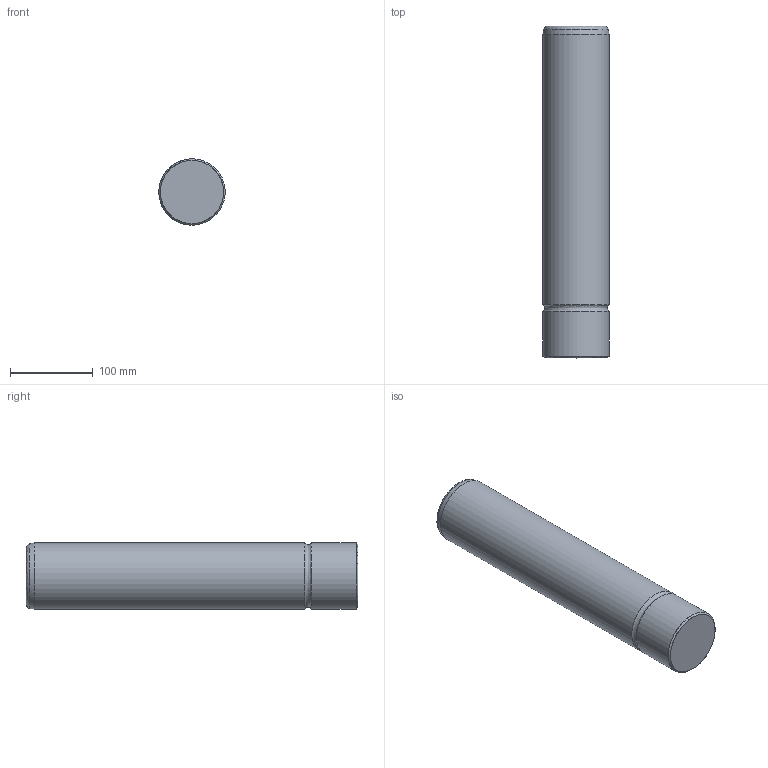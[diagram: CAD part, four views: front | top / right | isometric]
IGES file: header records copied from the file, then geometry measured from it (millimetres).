
Start section: Missler Software BP 521, 31674 Labege Cedex, France Tel   : +33 (0)5 61 00 03 00 Fax   : +33 (0)5 61 00 03 03 Email : sup.topsolid@topsolid.com
Global section: file name: C:\Documents and Settings\EXPER\Desktop\Cuma\D10 Serisi\D10_80400.igs; native system: TopSolid v605250 Missler Software; preprocessor: IGES preprocessor v100000; date: 030101.004830; units: millimetre
Bounding box: 79.75 x 400 x 80 mm (x, y, z)
Surface area: 110067.7 mm2 (no closed solid volume)
Topology: 0 solids, 0 shells, 8 faces, 85 edges, 80 vertices
Faces by surface type: bspline 8
